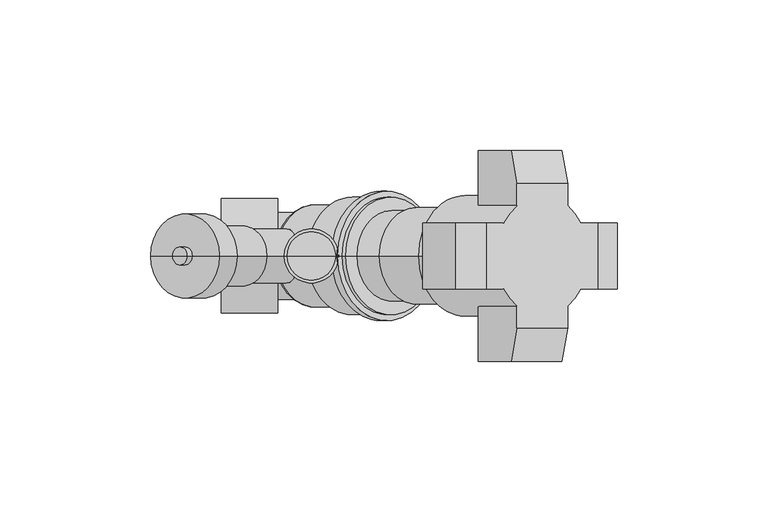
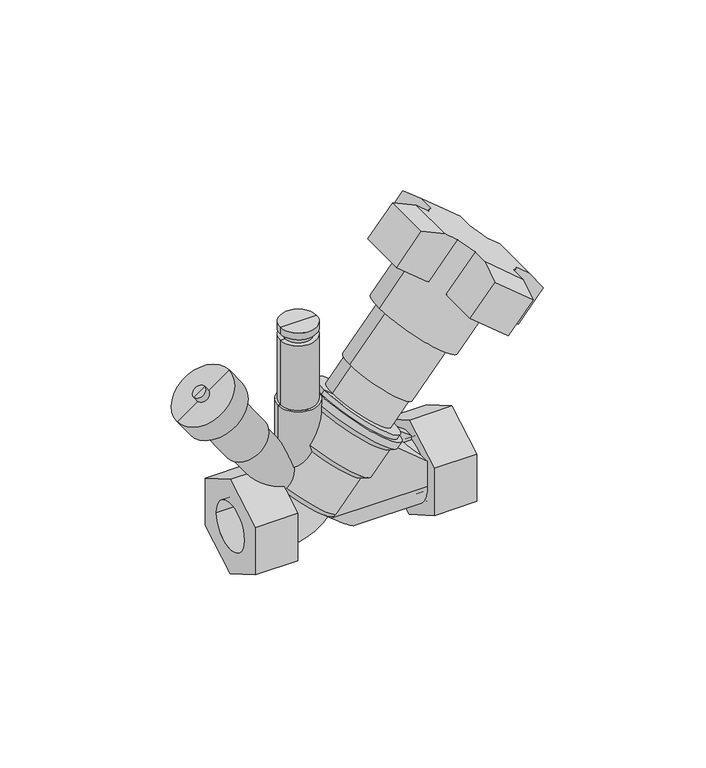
"""IFC4 building model written with IfcOpenShell, lengths in millimetres: valve geometry, 400_56_KOMF_VTR DN20-50 : DN 15, meet & vul/aftap."""

from ifc_helpers import new_model, si_unit, point, frame, origin, origin_2d, place, context, project, spatial, polyline, circle_curve, ellipse_curve, trimmed, segment, composite_curve, outline, extrude, source, transform, mapped, element, save
from ifc_brep_helpers import plane_surface, cylinder_surface, revolved_surface, advanced_brep


def valve_2c07aacf(model_context):
    return source(origin(), model_context, "Body", "SolidModel", [
        advanced_brep(
        [(-29.95, -19.0, 10.9696551), (-29.95, -19.0, -10.9696551), (-29.95, 0.0, -21.9393102), (-29.95, 19.0, -10.9696551), (-29.95, 19.0, 10.9696551), (-29.95, 0.0, 21.9393102), (-48.75, -19.0, 10.9696551), (-48.75, 0.0, 21.9393102), (-48.75, 19.0, 10.9696551), (-48.75, 19.0, -10.9696551), (-48.75, 0.0, -21.9393102), (-48.75, -19.0, -10.9696551), (-48.75, -10.65, 0.0), (-48.75, 10.65, 0.0), (-31.95, -10.65, 0.0), (-31.95, 10.65, 0.0)],
        [
            (0, 1),
            (1, 2),
            (2, 3),
            (3, 4),
            (4, 5),
            (5, 0),
            (6, 7),
            (7, 8),
            (8, 9),
            (9, 10),
            (10, 11),
            (11, 6),
            (12, 13, circle_curve(frame((-48.75, 0.0, 0.0), z_axis=(1.0, 0.0, 0.0), x_axis=(0.0, 1.0, 0.0)), 10.65)),
            (13, 12, circle_curve(frame((-48.75, 0.0, 0.0), z_axis=(1.0, 0.0, 0.0), x_axis=(0.0, 1.0, 0.0)), 10.65)),
            (0, 6),
            (11, 1),
            (10, 2),
            (9, 3),
            (8, 4),
            (7, 5),
            (14, 15, circle_curve(frame((-31.95, 0.0, 0.0), z_axis=(-1.0, 0.0, 0.0), x_axis=(0.0, 1.0, 0.0)), 10.65)),
            (15, 14, circle_curve(frame((-31.95, 0.0, 0.0), z_axis=(-1.0, 0.0, 0.0), x_axis=(0.0, 1.0, 0.0)), 10.65)),
            (15, 13),
            (12, 14),
        ],
        [
            plane_surface(frame((-29.95, -19.0, 10.9696551), z_axis=(1.0, 0.0, 0.0), x_axis=(0.0, 0.0, -1.0))),
            plane_surface(frame((-48.75, -19.0, 10.9696551), z_axis=(-1.0, 0.0, 0.0), x_axis=(0.0, 0.0, 1.0))),
            plane_surface(frame((-29.95, -19.0, 10.9696551), z_axis=(0.0, -1.0, 0.0), x_axis=(-1.0, 0.0, 0.0))),
            plane_surface(frame((-29.95, -19.0, -10.9696551), z_axis=(0.0, -0.5000000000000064, -0.866025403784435), x_axis=(-1.0, 0.0, 0.0))),
            plane_surface(frame((-29.95, 0.0, -21.9393102), z_axis=(0.0, 0.5000000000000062, -0.866025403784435), x_axis=(-1.0, 0.0, 0.0))),
            plane_surface(frame((-29.95, 19.0, -10.9696551), z_axis=(0.0, 1.0, 0.0), x_axis=(-1.0, 0.0, 0.0))),
            plane_surface(frame((-29.95, 19.0, 10.9696551), z_axis=(0.0, 0.5000000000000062, 0.866025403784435), x_axis=(-1.0, 0.0, 0.0))),
            plane_surface(frame((-29.95, 0.0, 21.9393102), z_axis=(0.0, -0.5000000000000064, 0.866025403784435), x_axis=(-1.0, 0.0, 0.0))),
            plane_surface(frame((-31.95, 10.65, 0.0), z_axis=(-1.0, 0.0, 0.0), x_axis=(0.0, 0.0, 1.0))),
            revolved_surface(polyline([(-31.95, 10.65, 0.0), (-48.75, 10.65, 0.0)]), (-48.75, 0.0, 0.0), (1.0, 0.0, 0.0)),
        ],
        [
            (0, [[1, 2, 3, 4, 5, 6]]),
            (1, [[7, 8, 9, 10, 11, 12], [13, 14]]),
            (2, [[-1, 15, -12, 16]]),
            (3, [[-2, -16, -11, 17]]),
            (4, [[-3, -17, -10, 18]]),
            (5, [[-4, -18, -9, 19]]),
            (6, [[-5, -19, -8, 20]]),
            (7, [[-6, -20, -7, -15]]),
            (8, [[21, 22]]),
            (9, [[-22, 23, -13, 24]]),
            (9, [[-21, -24, -14, -23]]),
        ],
    ),
        advanced_brep(
        [(48.75, -19.0, 10.9696551), (48.75, -19.0, -10.9696551), (48.75, 0.0, -21.9393102), (48.75, 19.0, -10.9696551), (48.75, 19.0, 10.9696551), (48.75, 0.0, 21.9393102), (48.75, 10.65, 0.0), (48.75, -10.65, 0.0), (29.95, -19.0, 10.9696551), (29.95, 0.0, 21.9393102), (29.95, 19.0, 10.9696551), (29.95, 19.0, -10.9696551), (29.95, 0.0, -21.9393102), (29.95, -19.0, -10.9696551), (31.95, -10.65, 0.0), (31.95, 10.65, 0.0)],
        [
            (0, 1),
            (1, 2),
            (2, 3),
            (3, 4),
            (4, 5),
            (5, 0),
            (6, 7, circle_curve(frame((48.75, 0.0, 0.0), z_axis=(-1.0, 0.0, 0.0), x_axis=(0.0, 1.0, 0.0)), 10.65)),
            (7, 6, circle_curve(frame((48.75, 0.0, 0.0), z_axis=(-1.0, 0.0, 0.0), x_axis=(0.0, 1.0, 0.0)), 10.65)),
            (8, 9),
            (9, 10),
            (10, 11),
            (11, 12),
            (12, 13),
            (13, 8),
            (0, 8),
            (13, 1),
            (12, 2),
            (11, 3),
            (10, 4),
            (9, 5),
            (14, 15, circle_curve(frame((31.95, 0.0, 0.0), z_axis=(1.0, 0.0, 0.0), x_axis=(0.0, 1.0, 0.0)), 10.65)),
            (15, 14, circle_curve(frame((31.95, 0.0, 0.0), z_axis=(1.0, 0.0, 0.0), x_axis=(0.0, 1.0, 0.0)), 10.65)),
            (14, 7),
            (6, 15),
        ],
        [
            plane_surface(frame((48.75, -19.0, 10.9696551), z_axis=(1.0, 0.0, 0.0), x_axis=(0.0, 0.0, -1.0))),
            plane_surface(frame((29.95, -19.0, 10.9696551), z_axis=(-1.0, 0.0, 0.0), x_axis=(0.0, 0.0, 1.0))),
            plane_surface(frame((48.75, -19.0, 10.9696551), z_axis=(0.0, -1.0, 0.0), x_axis=(-1.0, 0.0, 0.0))),
            plane_surface(frame((48.75, -19.0, -10.9696551), z_axis=(0.0, -0.5000000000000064, -0.866025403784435), x_axis=(-1.0, 0.0, 0.0))),
            plane_surface(frame((48.75, 0.0, -21.9393102), z_axis=(0.0, 0.5000000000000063, -0.866025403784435), x_axis=(-1.0, 0.0, 0.0))),
            plane_surface(frame((48.75, 19.0, -10.9696551), z_axis=(0.0, 1.0, 0.0), x_axis=(-1.0, 0.0, 0.0))),
            plane_surface(frame((48.75, 19.0, 10.9696551), z_axis=(0.0, 0.5000000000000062, 0.866025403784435), x_axis=(-1.0, 0.0, 0.0))),
            plane_surface(frame((48.75, 0.0, 21.9393102), z_axis=(0.0, -0.5000000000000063, 0.866025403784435), x_axis=(-1.0, 0.0, 0.0))),
            plane_surface(frame((31.95, 10.65, 0.0), z_axis=(1.0, 0.0, 0.0), x_axis=(0.0, 0.0, -1.0))),
            revolved_surface(polyline([(48.75, 10.65, 0.0), (31.95, 10.65, 0.0)]), (31.95, 0.0, 0.0), (1.0, 0.0, 0.0)),
        ],
        [
            (0, [[1, 2, 3, 4, 5, 6], [7, 8]]),
            (1, [[9, 10, 11, 12, 13, 14]]),
            (2, [[-1, 15, -14, 16]]),
            (3, [[-2, -16, -13, 17]]),
            (4, [[-3, -17, -12, 18]]),
            (5, [[-4, -18, -11, 19]]),
            (6, [[-5, -19, -10, 20]]),
            (7, [[-6, -20, -9, -15]]),
            (8, [[21, 22]]),
            (9, [[-21, 23, -7, 24]]),
            (9, [[-22, -24, -8, -23]]),
        ],
    ),
        extrude(outline(polyline([(14.5, 31.95), (22.4767765, 21.2168772), (35.0553129, 6.2263612), (0.0, 22.45), (0.0, 31.95), (14.5, 31.95)])), frame((0.0, -2.0, 0.0), z_axis=(0.0, 1.0, 0.0), x_axis=(0.0, 0.0, 1.0)), (0.0, 0.0, 1.0), 4.0),
        extrude(outline(composite_curve([segment(trimmed(circle_curve(origin_2d(), 10.65), [point((0.0, -10.65))], [point((0.0, 10.65))], False, "CARTESIAN"), True, "CONTINUOUS"), segment(trimmed(circle_curve(origin_2d(), 10.65), [point((0.0, 10.65))], [point((0.0, -10.65))], False, "CARTESIAN"), True, "CONTINUOUS")], self_intersect=False)), frame((29.95, 0.0, 0.0), z_axis=(1.0, 0.0, 0.0), x_axis=(0.0, 1.0, 0.0)), (0.0, 0.0, 1.0), 2.0),
        advanced_brep(
        [(7.5119364, 0.0, 36.5874018), (22.4498031, 0.0, 24.0530434), (-7.4259302, 0.0, 49.1217602), (-30.3330222, 0.0, 14.8213938), (-7.3516889, 0.0, -4.4622345), (-18.8423556, 0.0, 5.1795797), (-19.6521465, 0.0, 30.6618134), (6.3933645, 0.0, 8.8070347), (-4.5340248, 0.0, -4.2157208), (-30.5795359, 0.0, 17.6390579), (-20.2816824, 0.0, 33.8008714), (9.5940509, 0.0, 8.7321546), (-11.9254435, 0.0, 43.7594491), (17.9502898, 0.0, 18.6907323), (-12.1719572, 0.0, 46.5771132), (20.7679539, 0.0, 18.937246), (-10.2435943, 0.0, 48.8752465), (22.6963167, 0.0, 21.2353793), (-8.7115054, 0.0, 47.5896713), (21.1642278, 0.0, 22.5209546)],
        [
            (0, 1),
            (1, 2, circle_curve(frame((7.5119364, 0.0, 36.5874018), z_axis=(0.6427876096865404, 0.0, 0.7660444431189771), x_axis=(0.7660444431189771, 0.0, -0.6427876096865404)), 19.5)),
            (2, 0),
            (2, 1, circle_curve(frame((7.5119364, 0.0, 36.5874018), z_axis=(0.6427876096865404, 0.0, 0.7660444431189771), x_axis=(0.7660444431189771, 0.0, -0.6427876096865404)), 19.5)),
            (3, 4, circle_curve(frame((-18.8423556, 0.0, 5.1795797), z_axis=(-0.6427876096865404, 0.0, -0.7660444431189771), x_axis=(0.7660444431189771, 0.0, -0.6427876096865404)), 15.0)),
            (4, 5),
            (5, 3),
            (4, 3, circle_curve(frame((-18.8423556, 0.0, 5.1795797), z_axis=(-0.6427876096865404, 0.0, -0.7660444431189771), x_axis=(0.7660444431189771, 0.0, -0.6427876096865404)), 15.0)),
            (6, 7, circle_curve(frame((-6.629391, 0.0, 19.7344241), z_axis=(-0.6427876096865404, 0.0, -0.7660444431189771), x_axis=(0.7660444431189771, 0.0, -0.6427876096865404)), 17.0)),
            (7, 8),
            (8, 9, circle_curve(frame((-17.5567804, 0.0, 6.7116685), z_axis=(0.6427876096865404, 0.0, 0.7660444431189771), x_axis=(0.7660444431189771, 0.0, -0.6427876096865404)), 17.0)),
            (9, 6),
            (7, 6, circle_curve(frame((-6.629391, 0.0, 19.7344241), z_axis=(-0.6427876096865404, 0.0, -0.7660444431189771), x_axis=(0.7660444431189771, 0.0, -0.6427876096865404)), 17.0)),
            (9, 8, circle_curve(frame((-17.5567804, 0.0, 6.7116685), z_axis=(0.6427876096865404, 0.0, 0.7660444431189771), x_axis=(0.7660444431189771, 0.0, -0.6427876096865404)), 17.0)),
            (10, 11, circle_curve(frame((-5.3438158, 0.0, 21.266513), z_axis=(-0.6427876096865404, 0.0, -0.7660444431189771), x_axis=(0.7660444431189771, 0.0, -0.6427876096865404)), 19.5)),
            (11, 7),
            (6, 10),
            (11, 10, circle_curve(frame((-5.3438158, 0.0, 21.266513), z_axis=(-0.6427876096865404, 0.0, -0.7660444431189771), x_axis=(0.7660444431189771, 0.0, -0.6427876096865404)), 19.5)),
            (12, 13, circle_curve(frame((3.0124232, 0.0, 31.2250907), z_axis=(-0.6427876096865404, 0.0, -0.7660444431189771), x_axis=(0.7660444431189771, 0.0, -0.6427876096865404)), 19.5)),
            (13, 11),
            (10, 12),
            (13, 12, circle_curve(frame((3.0124232, 0.0, 31.2250907), z_axis=(-0.6427876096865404, 0.0, -0.7660444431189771), x_axis=(0.7660444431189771, 0.0, -0.6427876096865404)), 19.5)),
            (14, 15, circle_curve(frame((4.2979984, 0.0, 32.7571796), z_axis=(-0.6427876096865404, 0.0, -0.7660444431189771), x_axis=(0.7660444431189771, 0.0, -0.6427876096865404)), 21.5)),
            (15, 13),
            (12, 14),
            (15, 14, circle_curve(frame((4.2979984, 0.0, 32.7571796), z_axis=(-0.6427876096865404, 0.0, -0.7660444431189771), x_axis=(0.7660444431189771, 0.0, -0.6427876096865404)), 21.5)),
            (16, 17, circle_curve(frame((6.2263612, 0.0, 35.0553129), z_axis=(-0.6427876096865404, 0.0, -0.7660444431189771), x_axis=(0.7660444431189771, 0.0, -0.6427876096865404)), 21.5)),
            (17, 15),
            (14, 16),
            (17, 16, circle_curve(frame((6.2263612, 0.0, 35.0553129), z_axis=(-0.6427876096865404, 0.0, -0.7660444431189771), x_axis=(0.7660444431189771, 0.0, -0.6427876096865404)), 21.5)),
            (18, 19, circle_curve(frame((6.2263612, 0.0, 35.0553129), z_axis=(-0.6427876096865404, 0.0, -0.7660444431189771), x_axis=(0.7660444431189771, 0.0, -0.6427876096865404)), 19.5)),
            (19, 17),
            (16, 18),
            (19, 18, circle_curve(frame((6.2263612, 0.0, 35.0553129), z_axis=(-0.6427876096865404, 0.0, -0.7660444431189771), x_axis=(0.7660444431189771, 0.0, -0.6427876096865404)), 19.5)),
            (1, 19),
            (18, 2),
            (8, 4, circle_curve(frame((-6.0661137, 0.0, -2.9301456), z_axis=(0.0, 1.0, 0.0), x_axis=(0.6427876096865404, 0.0, 0.7660444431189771)), 2.0)),
            (3, 9, circle_curve(frame((-29.047447, 0.0, 16.3534827), z_axis=(0.0, 1.0, 0.0), x_axis=(0.6427876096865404, 0.0, 0.7660444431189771)), 2.0)),
        ],
        [
            plane_surface(frame((7.5119364, 0.0, 36.5874018), z_axis=(0.6427876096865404, 0.0, 0.7660444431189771), x_axis=(0.7660444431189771, 0.0, -0.6427876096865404))),
            plane_surface(frame((-18.8423556, 0.0, 5.1795797), z_axis=(-0.6427876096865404, 0.0, -0.7660444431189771), x_axis=(0.7660444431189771, 0.0, -0.6427876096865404))),
            cylinder_surface(frame((-23.188539, 0.0, 0.0), z_axis=(0.6427876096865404, 0.0, 0.7660444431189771), x_axis=(0.7660444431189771, 0.0, -0.6427876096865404)), 17.0),
            revolved_surface(polyline([(6.3933645, 0.0, 8.8070347), (9.5940509, 0.0, 8.7321546)]), (-23.188539, 0.0, 0.0), (0.6427876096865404, 0.0, 0.7660444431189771)),
            cylinder_surface(frame((-23.188539, 0.0, 0.0), z_axis=(0.6427876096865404, 0.0, 0.7660444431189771), x_axis=(0.7660444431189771, 0.0, -0.6427876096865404)), 19.5),
            revolved_surface(polyline([(17.9502898, 0.0, 18.6907323), (20.7679539, 0.0, 18.937246)]), (-23.188539, 0.0, 0.0), (0.6427876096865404, 0.0, 0.7660444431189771)),
            cylinder_surface(frame((-23.188539, 0.0, 0.0), z_axis=(0.6427876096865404, 0.0, 0.7660444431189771), x_axis=(0.7660444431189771, 0.0, -0.6427876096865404)), 21.5),
            plane_surface(frame((6.2263612, 0.0, 35.0553129), z_axis=(0.6427876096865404, 0.0, 0.7660444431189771), x_axis=(0.7660444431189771, 0.0, -0.6427876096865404))),
            revolved_surface(trimmed(ellipse_curve(frame((-6.0661137, 0.0, -2.9301456), z_axis=(0.0, -1.0, 0.0), x_axis=(0.6427876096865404, 0.0, 0.7660444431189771)), 2.0, 2.0), [point((-7.3516889, 0.0, -4.4622345))], [point((-4.5340248, 0.0, -4.2157208))], True, "CARTESIAN"), (-23.188539, 0.0, 0.0), (0.6427876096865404, 0.0, 0.7660444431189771)),
        ],
        [
            (0, [[1, 2, 3]]),
            (0, [[-3, 4, -1]]),
            (1, [[5, 6, 7]]),
            (1, [[8, -7, -6]]),
            (2, [[9, 10, 11, 12]]),
            (2, [[13, -12, 14, -10]]),
            (3, [[15, 16, -9, 17]]),
            (3, [[18, -17, -13, -16]]),
            (4, [[19, 20, -15, 21]]),
            (4, [[22, -21, -18, -20]]),
            (5, [[23, 24, -19, 25]]),
            (5, [[26, -25, -22, -24]]),
            (6, [[27, 28, -23, 29]]),
            (6, [[30, -29, -26, -28]]),
            (7, [[31, 32, -27, 33]]),
            (7, [[34, -33, -30, -32]]),
            (4, [[-2, 35, -31, 36]]),
            (4, [[-4, -36, -34, -35]]),
            (8, [[-11, 37, -5, 38]]),
            (8, [[-14, -38, -8, -37]]),
        ],
    ),
        advanced_brep(
        [(-27.8423556, 0.0, 49.0404639), (-9.8423556, 0.0, 49.0404639), (-9.8423556, 0.0, 5.1795797), (-27.8423556, 0.0, 5.1795797), (-26.8423556, 0.0, 49.0404639), (-10.8423556, 0.0, 49.0404639), (-26.8423556, 0.0, 79.0404639), (-10.8423556, 0.0, 79.0404639), (-24.8423556, 0.0, 79.0404639), (-12.8423556, 0.0, 79.0404639), (-18.8423556, 0.0, 5.1795797), (-24.8423556, 0.0, 82.0404639), (-12.8423556, 0.0, 82.0404639), (-26.8423556, 0.0, 82.0404639), (-10.8423556, 0.0, 82.0404639), (-26.8423556, 0.0, 85.0404639), (-10.8423556, 0.0, 85.0404639), (-18.8423556, 0.0, 85.0404639)],
        [
            (0, 1, circle_curve(frame((-18.8423556, 0.0, 49.0404639), z_axis=(0.0, 0.0, -1.0), x_axis=(1.0, 0.0, 0.0)), 9.0)),
            (1, 2),
            (2, 3, circle_curve(frame((-18.8423556, 0.0, 5.1795797), z_axis=(0.0, 0.0, 1.0), x_axis=(1.0, 0.0, 0.0)), 9.0)),
            (3, 0),
            (1, 0, circle_curve(frame((-18.8423556, 0.0, 49.0404639), z_axis=(0.0, 0.0, -1.0), x_axis=(1.0, 0.0, 0.0)), 9.0)),
            (3, 2, circle_curve(frame((-18.8423556, 0.0, 5.1795797), z_axis=(0.0, 0.0, 1.0), x_axis=(1.0, 0.0, 0.0)), 9.0)),
            (4, 5, circle_curve(frame((-18.8423556, 0.0, 49.0404639), z_axis=(0.0, 0.0, -1.0), x_axis=(1.0, 0.0, 0.0)), 8.0)),
            (5, 1),
            (0, 4),
            (5, 4, circle_curve(frame((-18.8423556, 0.0, 49.0404639), z_axis=(0.0, 0.0, -1.0), x_axis=(1.0, 0.0, 0.0)), 8.0)),
            (6, 7, circle_curve(frame((-18.8423556, 0.0, 79.0404639), z_axis=(0.0, 0.0, -1.0), x_axis=(1.0, 0.0, 0.0)), 8.0)),
            (7, 5),
            (4, 6),
            (7, 6, circle_curve(frame((-18.8423556, 0.0, 79.0404639), z_axis=(0.0, 0.0, -1.0), x_axis=(1.0, 0.0, 0.0)), 8.0)),
            (8, 9, circle_curve(frame((-18.8423556, 0.0, 79.0404639), z_axis=(0.0, 0.0, -1.0), x_axis=(1.0, 0.0, 0.0)), 6.0)),
            (9, 7),
            (6, 8),
            (9, 8, circle_curve(frame((-18.8423556, 0.0, 79.0404639), z_axis=(0.0, 0.0, -1.0), x_axis=(1.0, 0.0, 0.0)), 6.0)),
            (2, 10),
            (10, 3),
            (11, 12, circle_curve(frame((-18.8423556, 0.0, 82.0404639), z_axis=(0.0, 0.0, -1.0), x_axis=(1.0, 0.0, 0.0)), 6.0)),
            (12, 9),
            (8, 11),
            (12, 11, circle_curve(frame((-18.8423556, 0.0, 82.0404639), z_axis=(0.0, 0.0, -1.0), x_axis=(1.0, 0.0, 0.0)), 6.0)),
            (13, 14, circle_curve(frame((-18.8423556, 0.0, 82.0404639), z_axis=(0.0, 0.0, -1.0), x_axis=(1.0, 0.0, 0.0)), 8.0)),
            (14, 12),
            (11, 13),
            (14, 13, circle_curve(frame((-18.8423556, 0.0, 82.0404639), z_axis=(0.0, 0.0, -1.0), x_axis=(1.0, 0.0, 0.0)), 8.0)),
            (15, 16, circle_curve(frame((-18.8423556, 0.0, 85.0404639), z_axis=(0.0, 0.0, -1.0), x_axis=(1.0, 0.0, 0.0)), 8.0)),
            (16, 14),
            (13, 15),
            (16, 15, circle_curve(frame((-18.8423556, 0.0, 85.0404639), z_axis=(0.0, 0.0, -1.0), x_axis=(1.0, 0.0, 0.0)), 8.0)),
            (17, 16),
            (15, 17),
        ],
        [
            cylinder_surface(frame((-18.8423556, 0.0, 5.1795797), z_axis=(0.0, 0.0, 1.0), x_axis=(1.0, 0.0, 0.0)), 9.0),
            plane_surface(frame((-18.8423556, 0.0, 49.0404639), z_axis=(0.0, 0.0, 1.0), x_axis=(1.0, 0.0, 0.0))),
            cylinder_surface(frame((-18.8423556, 0.0, 5.1795797), z_axis=(0.0, 0.0, 1.0), x_axis=(1.0, 0.0, 0.0)), 8.0),
            plane_surface(frame((-18.8423556, 0.0, 79.0404639), z_axis=(0.0, 0.0, 1.0), x_axis=(1.0, 0.0, 0.0))),
            plane_surface(frame((-18.8423556, 0.0, 5.1795797), z_axis=(0.0, 0.0, -1.0), x_axis=(1.0, 0.0, 0.0))),
            cylinder_surface(frame((-18.8423556, 0.0, 5.1795797), z_axis=(0.0, 0.0, 1.0), x_axis=(1.0, 0.0, 0.0)), 6.0),
            plane_surface(frame((-18.8423556, 0.0, 82.0404639), z_axis=(0.0, 0.0, -1.0), x_axis=(1.0, 0.0, 0.0))),
            plane_surface(frame((-18.8423556, 0.0, 85.0404639), z_axis=(0.0, 0.0, 1.0), x_axis=(1.0, 0.0, 0.0))),
        ],
        [
            (0, [[1, 2, 3, 4]]),
            (0, [[5, -4, 6, -2]]),
            (1, [[7, 8, -1, 9]]),
            (1, [[10, -9, -5, -8]]),
            (2, [[11, 12, -7, 13]]),
            (2, [[14, -13, -10, -12]]),
            (3, [[15, 16, -11, 17]]),
            (3, [[18, -17, -14, -16]]),
            (4, [[-3, 19, 20]]),
            (4, [[-6, -20, -19]]),
            (5, [[21, 22, -15, 23]]),
            (5, [[24, -23, -18, -22]]),
            (6, [[25, 26, -21, 27]]),
            (6, [[28, -27, -24, -26]]),
            (2, [[29, 30, -25, 31]]),
            (2, [[32, -31, -28, -30]]),
            (7, [[33, -29, 34]]),
            (7, [[-34, -32, -33]]),
        ],
    ),
        advanced_brep(
        [(-62.8411907, 0.0, 48.8385136), (-44.8198457, 0.0, 61.4571952), (-45.6389977, 0.0, 60.8836187), (-62.0220386, 0.0, 49.41209), (-26.214724, 0.0, 0.0173917), (-11.4699872, 0.0, 10.3417676), (-18.8423556, 0.0, 5.1795797), (-49.1577814, 0.0, 32.7834735), (-34.4130446, 0.0, 43.1078494), (-49.9769335, 0.0, 32.2098971), (-33.5938926, 0.0, 43.6814258), (-63.9883436, 0.0, 50.4768176), (-45.9669986, 0.0, 63.0954992), (-66.4457997, 0.0, 48.7560883), (-43.5095424, 0.0, 64.8162286), (-72.181564, 0.0, 56.9476088), (-49.2453068, 0.0, 73.007749), (-63.1708916, 0.0, 63.2569496), (-58.2559793, 0.0, 66.6984082), (-64.8916209, 0.0, 65.7144057), (-59.9767086, 0.0, 69.1558643), (-62.4341647, 0.0, 67.435135)],
        [
            (0, 1, circle_curve(frame((-53.8305182, 0.0, 55.1478544), z_axis=(0.573576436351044, 0.0, -0.8191520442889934), x_axis=(0.8191520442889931, 0.0, 0.5735764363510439)), 11.0)),
            (1, 2),
            (2, 3, circle_curve(frame((-53.8305182, 0.0, 55.1478544), z_axis=(-0.573576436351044, 0.0, 0.8191520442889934), x_axis=(0.8191520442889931, 0.0, 0.5735764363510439)), 10.0)),
            (3, 0),
            (1, 0, circle_curve(frame((-53.8305182, 0.0, 55.1478544), z_axis=(0.573576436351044, 0.0, -0.8191520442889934), x_axis=(0.8191520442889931, 0.0, 0.5735764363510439)), 11.0)),
            (3, 2, circle_curve(frame((-53.8305182, 0.0, 55.1478544), z_axis=(-0.573576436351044, 0.0, 0.8191520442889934), x_axis=(0.8191520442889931, 0.0, 0.5735764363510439)), 10.0)),
            (4, 5, circle_curve(frame((-18.8423556, 0.0, 5.1795797), z_axis=(0.573576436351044, 0.0, -0.8191520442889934), x_axis=(0.8191520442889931, 0.0, 0.5735764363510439)), 9.0)),
            (5, 6),
            (6, 4),
            (5, 4, circle_curve(frame((-18.8423556, 0.0, 5.1795797), z_axis=(0.573576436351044, 0.0, -0.8191520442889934), x_axis=(0.8191520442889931, 0.0, 0.5735764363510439)), 9.0)),
            (7, 8, circle_curve(frame((-41.785413, 0.0, 37.9456614), z_axis=(0.573576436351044, 0.0, -0.8191520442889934), x_axis=(0.8191520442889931, 0.0, 0.5735764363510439)), 9.0)),
            (8, 5),
            (4, 7),
            (8, 7, circle_curve(frame((-41.785413, 0.0, 37.9456614), z_axis=(0.573576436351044, 0.0, -0.8191520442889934), x_axis=(0.8191520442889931, 0.0, 0.5735764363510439)), 9.0)),
            (9, 10, circle_curve(frame((-41.785413, 0.0, 37.9456614), z_axis=(0.573576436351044, 0.0, -0.8191520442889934), x_axis=(0.8191520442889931, 0.0, 0.5735764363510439)), 10.0)),
            (10, 8),
            (7, 9),
            (10, 9, circle_curve(frame((-41.785413, 0.0, 37.9456614), z_axis=(0.573576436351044, 0.0, -0.8191520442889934), x_axis=(0.8191520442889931, 0.0, 0.5735764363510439)), 10.0)),
            (2, 10),
            (9, 3),
            (11, 12, circle_curve(frame((-54.9776711, 0.0, 56.7861584), z_axis=(0.573576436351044, 0.0, -0.8191520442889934), x_axis=(0.8191520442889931, 0.0, 0.5735764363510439)), 11.0)),
            (12, 1),
            (0, 11),
            (12, 11, circle_curve(frame((-54.9776711, 0.0, 56.7861584), z_axis=(0.573576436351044, 0.0, -0.8191520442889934), x_axis=(0.8191520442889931, 0.0, 0.5735764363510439)), 11.0)),
            (13, 14, circle_curve(frame((-54.9776711, 0.0, 56.7861584), z_axis=(0.573576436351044, 0.0, -0.8191520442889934), x_axis=(0.8191520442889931, 0.0, 0.5735764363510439)), 14.0)),
            (14, 12),
            (11, 13),
            (14, 13, circle_curve(frame((-54.9776711, 0.0, 56.7861584), z_axis=(0.573576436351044, 0.0, -0.8191520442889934), x_axis=(0.8191520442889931, 0.0, 0.5735764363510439)), 14.0)),
            (15, 16, circle_curve(frame((-60.7134354, 0.0, 64.9776789), z_axis=(0.573576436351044, 0.0, -0.8191520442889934), x_axis=(0.8191520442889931, 0.0, 0.5735764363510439)), 14.0)),
            (16, 14),
            (13, 15),
            (16, 15, circle_curve(frame((-60.7134354, 0.0, 64.9776789), z_axis=(0.573576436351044, 0.0, -0.8191520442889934), x_axis=(0.8191520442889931, 0.0, 0.5735764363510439)), 14.0)),
            (17, 18, circle_curve(frame((-60.7134354, 0.0, 64.9776789), z_axis=(0.573576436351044, 0.0, -0.8191520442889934), x_axis=(0.8191520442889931, 0.0, 0.5735764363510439)), 3.0)),
            (18, 16),
            (15, 17),
            (18, 17, circle_curve(frame((-60.7134354, 0.0, 64.9776789), z_axis=(0.573576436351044, 0.0, -0.8191520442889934), x_axis=(0.8191520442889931, 0.0, 0.5735764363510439)), 3.0)),
            (19, 20, circle_curve(frame((-62.4341647, 0.0, 67.435135), z_axis=(0.573576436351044, 0.0, -0.8191520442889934), x_axis=(0.8191520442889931, 0.0, 0.5735764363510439)), 3.0)),
            (20, 18),
            (17, 19),
            (20, 19, circle_curve(frame((-62.4341647, 0.0, 67.435135), z_axis=(0.573576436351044, 0.0, -0.8191520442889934), x_axis=(0.8191520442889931, 0.0, 0.5735764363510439)), 3.0)),
            (21, 20),
            (19, 21),
        ],
        [
            plane_surface(frame((-53.8305182, 0.0, 55.1478544), z_axis=(0.573576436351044, 0.0, -0.8191520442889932), x_axis=(0.8191520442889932, 0.0, 0.573576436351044))),
            plane_surface(frame((-18.8423556, 0.0, 5.1795797), z_axis=(0.573576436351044, 0.0, -0.8191520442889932), x_axis=(0.8191520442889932, 0.0, 0.573576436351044))),
            cylinder_surface(frame((-18.8423556, 0.0, 5.1795797), z_axis=(-0.5735764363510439, 0.0, 0.8191520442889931), x_axis=(0.8191520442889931, 0.0, 0.5735764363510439)), 9.0),
            plane_surface(frame((-41.785413, 0.0, 37.9456614), z_axis=(0.573576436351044, 0.0, -0.8191520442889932), x_axis=(0.8191520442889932, 0.0, 0.573576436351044))),
            cylinder_surface(frame((-18.8423556, 0.0, 5.1795797), z_axis=(-0.5735764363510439, 0.0, 0.8191520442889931), x_axis=(0.8191520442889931, 0.0, 0.5735764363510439)), 10.0),
            cylinder_surface(frame((-18.8423556, 0.0, 5.1795797), z_axis=(-0.5735764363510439, 0.0, 0.8191520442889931), x_axis=(0.8191520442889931, 0.0, 0.5735764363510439)), 11.0),
            plane_surface(frame((-54.9776711, 0.0, 56.7861584), z_axis=(0.573576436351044, 0.0, -0.8191520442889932), x_axis=(0.8191520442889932, 0.0, 0.573576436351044))),
            cylinder_surface(frame((-18.8423556, 0.0, 5.1795797), z_axis=(-0.5735764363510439, 0.0, 0.8191520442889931), x_axis=(0.8191520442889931, 0.0, 0.5735764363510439)), 14.0),
            plane_surface(frame((-60.7134354, 0.0, 64.9776789), z_axis=(-0.573576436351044, 0.0, 0.8191520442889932), x_axis=(0.8191520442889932, 0.0, 0.573576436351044))),
            cylinder_surface(frame((-18.8423556, 0.0, 5.1795797), z_axis=(-0.5735764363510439, 0.0, 0.8191520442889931), x_axis=(0.8191520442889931, 0.0, 0.5735764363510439)), 3.0),
            plane_surface(frame((-62.4341647, 0.0, 67.435135), z_axis=(-0.573576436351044, 0.0, 0.8191520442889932), x_axis=(0.8191520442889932, 0.0, 0.573576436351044))),
        ],
        [
            (0, [[1, 2, 3, 4]]),
            (0, [[5, -4, 6, -2]]),
            (1, [[7, 8, 9]]),
            (1, [[10, -9, -8]]),
            (2, [[11, 12, -7, 13]]),
            (2, [[14, -13, -10, -12]]),
            (3, [[15, 16, -11, 17]]),
            (3, [[18, -17, -14, -16]]),
            (4, [[-3, 19, -15, 20]]),
            (4, [[-6, -20, -18, -19]]),
            (5, [[21, 22, -1, 23]]),
            (5, [[24, -23, -5, -22]]),
            (6, [[25, 26, -21, 27]]),
            (6, [[28, -27, -24, -26]]),
            (7, [[29, 30, -25, 31]]),
            (7, [[32, -31, -28, -30]]),
            (8, [[33, 34, -29, 35]]),
            (8, [[36, -35, -32, -34]]),
            (9, [[37, 38, -33, 39]]),
            (9, [[40, -39, -36, -38]]),
            (10, [[41, -37, 42]]),
            (10, [[-42, -40, -41]]),
        ],
    ),
        advanced_brep(
        [(4.5147563, 0.0, 56.351359), (27.4960896, 0.0, 37.0677307), (19.0026031, 0.0, 26.9455877), (-3.9787302, 0.0, 46.229216), (3.7487118, 0.0, 56.9941466), (28.262134, 0.0, 36.4249431), (19.8184021, 0.0, 76.1452577), (44.3318242, 0.0, 55.5760542), (16.7542243, 0.0, 78.7164081), (47.396002, 0.0, 53.0049037), (29.6099765, 0.0, 94.037297), (32.1354005, 11.0, 91.9182146), (44.9911527, 11.0, 107.2391035), (49.3601287, 16.7032931, 103.5730974), (36.5043765, 16.7032931, 88.2522085), (53.3573542, 16.7032931, 74.1108811), (66.2131064, 16.7032931, 89.43177), (70.5820824, 11.0, 85.7657638), (57.7263302, 11.0, 70.444875), (60.2517542, 0.0, 68.3257926), (57.7263302, -11.0, 70.444875), (70.5820824, -11.0, 85.7657638), (66.2131064, -16.7032931, 89.43177), (53.3573542, -16.7032931, 74.1108811), (36.5043765, -16.7032931, 88.2522085), (49.3601287, -16.7032931, 103.5730974), (44.9911527, -11.0, 107.2391035), (32.1354005, -11.0, 91.9182146), (76.1716842, -11.0, 81.075531), (76.1716842, 11.0, 81.075531), (66.2131064, 24.0, 89.43177), (49.3601287, 24.0, 103.5730974), (39.4015509, 11.0, 111.9293363), (39.4015509, -11.0, 111.9293363), (49.3601287, -24.0, 103.5730974), (66.2131064, -24.0, 89.43177), (7.5119364, 0.0, 36.5874018), (29.0466992, -11.0, 116.7018667), (18.1193098, -11.0, 103.6791111), (71.7424209, -11.0, 58.6839785), (82.6698102, -11.0, 71.706734), (82.6698102, 11.0, 71.706734), (71.7424209, 11.0, 58.6839785), (18.1193098, 11.0, 103.6791111), (29.0466992, 11.0, 116.7018667), (53.3573542, 35.0, 74.1108811), (64.2847436, 35.0, 87.1336366), (64.2847436, -35.0, 87.1336366), (53.3573542, -35.0, 74.1108811), (36.5043765, -35.0, 88.2522085), (47.4317658, -35.0, 101.274964), (47.4317658, 35.0, 101.274964), (36.5043765, 35.0, 88.2522085)],
        [
            (0, 1, circle_curve(frame((16.0054229, 0.0, 46.7095449), z_axis=(-0.6427876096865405, 0.0, -0.7660444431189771), x_axis=(0.7660444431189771, 0.0, -0.6427876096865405)), 15.0)),
            (1, 2),
            (2, 3, circle_curve(frame((7.5119364, 0.0, 36.5874018), z_axis=(0.6427876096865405, 0.0, 0.7660444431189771), x_axis=(0.7660444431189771, 0.0, -0.6427876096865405)), 15.0)),
            (3, 0),
            (1, 0, circle_curve(frame((16.0054229, 0.0, 46.7095449), z_axis=(-0.6427876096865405, 0.0, -0.7660444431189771), x_axis=(0.7660444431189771, 0.0, -0.6427876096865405)), 15.0)),
            (3, 2, circle_curve(frame((7.5119364, 0.0, 36.5874018), z_axis=(0.6427876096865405, 0.0, 0.7660444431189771), x_axis=(0.7660444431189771, 0.0, -0.6427876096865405)), 15.0)),
            (0, 4),
            (4, 5, circle_curve(frame((16.0054229, 0.0, 46.7095449), z_axis=(-0.6427876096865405, 0.0, -0.7660444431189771), x_axis=(0.7660444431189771, 0.0, -0.6427876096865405)), 16.0)),
            (5, 1),
            (5, 4, circle_curve(frame((16.0054229, 0.0, 46.7095449), z_axis=(-0.6427876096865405, 0.0, -0.7660444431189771), x_axis=(0.7660444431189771, 0.0, -0.6427876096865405)), 16.0)),
            (4, 6),
            (6, 7, circle_curve(frame((32.0751131, 0.0, 65.8606559), z_axis=(-0.6427876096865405, 0.0, -0.7660444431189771), x_axis=(0.7660444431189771, 0.0, -0.6427876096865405)), 16.0)),
            (7, 5),
            (7, 6, circle_curve(frame((32.0751131, 0.0, 65.8606559), z_axis=(-0.6427876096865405, 0.0, -0.7660444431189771), x_axis=(0.7660444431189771, 0.0, -0.6427876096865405)), 16.0)),
            (6, 8),
            (8, 9, circle_curve(frame((32.0751131, 0.0, 65.8606559), z_axis=(-0.6427876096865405, 0.0, -0.7660444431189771), x_axis=(0.7660444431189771, 0.0, -0.6427876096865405)), 20.0)),
            (9, 7),
            (9, 8, circle_curve(frame((32.0751131, 0.0, 65.8606559), z_axis=(-0.6427876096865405, 0.0, -0.7660444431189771), x_axis=(0.7660444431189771, 0.0, -0.6427876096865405)), 20.0)),
            (8, 10),
            (10, 11, circle_curve(frame((44.9308653, 0.0, 81.1815448), z_axis=(-0.6427876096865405, 0.0, -0.7660444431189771), x_axis=(0.7660444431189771, 0.0, -0.6427876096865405)), 20.0)),
            (11, 12),
            (12, 13, circle_curve(frame((57.7866175, 0.0, 96.5024337), z_axis=(-0.6427876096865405, 0.0, -0.7660444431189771), x_axis=(0.7660444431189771, 0.0, -0.6427876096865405)), 20.0)),
            (13, 14),
            (14, 15, circle_curve(frame((44.9308653, 0.0, 81.1815448), z_axis=(-0.6427876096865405, 0.0, -0.7660444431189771), x_axis=(0.7660444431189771, 0.0, -0.6427876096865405)), 20.0)),
            (15, 16),
            (16, 17, circle_curve(frame((57.7866175, 0.0, 96.5024337), z_axis=(-0.6427876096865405, 0.0, -0.7660444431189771), x_axis=(0.7660444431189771, 0.0, -0.6427876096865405)), 20.0)),
            (17, 18),
            (18, 19, circle_curve(frame((44.9308653, 0.0, 81.1815448), z_axis=(-0.6427876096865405, 0.0, -0.7660444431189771), x_axis=(0.7660444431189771, 0.0, -0.6427876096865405)), 20.0)),
            (19, 9),
            (19, 20, circle_curve(frame((44.9308653, 0.0, 81.1815448), z_axis=(-0.6427876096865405, 0.0, -0.7660444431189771), x_axis=(0.7660444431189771, 0.0, -0.6427876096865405)), 20.0)),
            (20, 21),
            (21, 22, circle_curve(frame((57.7866175, 0.0, 96.5024337), z_axis=(-0.6427876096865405, 0.0, -0.7660444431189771), x_axis=(0.7660444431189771, 0.0, -0.6427876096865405)), 20.0)),
            (22, 23),
            (23, 24, circle_curve(frame((44.9308653, 0.0, 81.1815448), z_axis=(-0.6427876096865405, 0.0, -0.7660444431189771), x_axis=(0.7660444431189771, 0.0, -0.6427876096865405)), 20.0)),
            (24, 25),
            (25, 26, circle_curve(frame((57.7866175, 0.0, 96.5024337), z_axis=(-0.6427876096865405, 0.0, -0.7660444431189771), x_axis=(0.7660444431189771, 0.0, -0.6427876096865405)), 20.0)),
            (26, 27),
            (27, 10, circle_curve(frame((44.9308653, 0.0, 81.1815448), z_axis=(-0.6427876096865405, 0.0, -0.7660444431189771), x_axis=(0.7660444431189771, 0.0, -0.6427876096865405)), 20.0)),
            (28, 29),
            (29, 17),
            (16, 30),
            (30, 31),
            (31, 13),
            (12, 32),
            (32, 33),
            (33, 26),
            (25, 34),
            (34, 35),
            (35, 22),
            (21, 28),
            (2, 36),
            (36, 3),
            (33, 37),
            (37, 38),
            (38, 27),
            (39, 40),
            (40, 28),
            (20, 39),
            (29, 41),
            (41, 42),
            (42, 18),
            (43, 44),
            (44, 32),
            (11, 43),
            (44, 37),
            (43, 38),
            (42, 39),
            (41, 40),
            (45, 46),
            (46, 30),
            (15, 45),
            (35, 47),
            (47, 48),
            (48, 23),
            (49, 50),
            (50, 34),
            (24, 49),
            (31, 51),
            (51, 52),
            (52, 14),
            (45, 52),
            (51, 46),
            (50, 47),
            (49, 48),
        ],
        [
            cylinder_surface(frame((-23.188539, 0.0, 0.0), z_axis=(0.6427876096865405, 0.0, 0.7660444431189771), x_axis=(0.7660444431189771, 0.0, -0.6427876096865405)), 15.0),
            plane_surface(frame((16.0054229, 0.0, 46.7095449), z_axis=(-0.6427876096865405, 0.0, -0.7660444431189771), x_axis=(0.7660444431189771, 0.0, -0.6427876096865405))),
            cylinder_surface(frame((-23.188539, 0.0, 0.0), z_axis=(0.6427876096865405, 0.0, 0.7660444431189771), x_axis=(0.7660444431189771, 0.0, -0.6427876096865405)), 16.0),
            plane_surface(frame((32.0751131, 0.0, 65.8606559), z_axis=(-0.6427876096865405, 0.0, -0.7660444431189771), x_axis=(0.7660444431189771, 0.0, -0.6427876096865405))),
            cylinder_surface(frame((-23.188539, 0.0, 0.0), z_axis=(0.6427876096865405, 0.0, 0.7660444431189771), x_axis=(0.7660444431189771, 0.0, -0.6427876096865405)), 20.0),
            plane_surface(frame((57.7866175, 0.0, 96.5024337), z_axis=(0.6427876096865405, 0.0, 0.7660444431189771), x_axis=(0.7660444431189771, 0.0, -0.6427876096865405))),
            plane_surface(frame((7.5119364, 0.0, 36.5874018), z_axis=(-0.6427876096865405, 0.0, -0.7660444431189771), x_axis=(0.7660444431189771, 0.0, -0.6427876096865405))),
            plane_surface(frame((39.4015509, -11.0, 111.9293363), z_axis=(0.0, -1.0, 0.0), x_axis=(-0.7660444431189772, 0.0, 0.6427876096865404))),
            plane_surface(frame((39.4015509, 11.0, 111.9293363), z_axis=(0.0, 1.0, 0.0), x_axis=(0.7660444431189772, 0.0, -0.6427876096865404))),
            plane_surface(frame((39.4015509, -11.0, 111.9293363), z_axis=(0.4185786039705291, 0.0, 0.9081805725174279), x_axis=(0.0, 1.0, 0.0))),
            plane_surface(frame((29.0466992, -11.0, 116.7018667), z_axis=(-0.7660444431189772, 0.0, 0.6427876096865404), x_axis=(0.0, 1.0, 0.0))),
            plane_surface(frame((18.1193098, -11.0, 103.6791111), z_axis=(-0.6427876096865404, 0.0, -0.7660444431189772), x_axis=(0.0, 1.0, 0.0))),
            plane_surface(frame((71.7424209, -11.0, 58.6839785), z_axis=(0.7660444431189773, 0.0, -0.6427876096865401), x_axis=(0.0, 1.0, 0.0))),
            plane_surface(frame((82.6698102, -11.0, 71.706734), z_axis=(0.8216978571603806, 0.0, 0.5699233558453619), x_axis=(0.0, 1.0, 0.0))),
            plane_surface(frame((64.2847436, 35.0, 87.1336366), z_axis=(0.7660444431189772, 0.0, -0.6427876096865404), x_axis=(0.6427876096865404, 0.0, 0.7660444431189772))),
            plane_surface(frame((47.4317658, 35.0, 101.274964), z_axis=(-0.7660444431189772, 0.0, 0.6427876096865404), x_axis=(-0.6427876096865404, 0.0, -0.7660444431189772))),
            plane_surface(frame((53.3573542, 35.0, 74.1108811), z_axis=(0.0, 1.0000000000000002, 0.0), x_axis=(-0.7660444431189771, 0.0, 0.6427876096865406))),
            plane_surface(frame((64.2847436, 35.0, 87.1336366), z_axis=(0.6201382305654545, 0.26311740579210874, 0.7390519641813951), x_axis=(-0.7660444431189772, 0.0, 0.6427876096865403))),
            plane_surface(frame((66.2131064, -24.0, 89.43177), z_axis=(0.6201382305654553, -0.2631174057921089, 0.7390519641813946), x_axis=(-0.7660444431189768, 0.0, 0.642787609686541))),
            plane_surface(frame((64.2847436, -35.0, 87.1336366), z_axis=(0.0, -1.0, 0.0), x_axis=(-0.7660444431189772, 0.0, 0.6427876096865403))),
            plane_surface(frame((53.3573542, -35.0, 74.1108811), z_axis=(-0.6427876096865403, 0.0, -0.7660444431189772), x_axis=(-0.7660444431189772, 0.0, 0.6427876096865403))),
        ],
        [
            (0, [[1, 2, 3, 4]]),
            (0, [[-2, 5, -4, 6]]),
            (1, [[-1, 7, 8, 9]]),
            (1, [[-5, -9, 10, -7]]),
            (2, [[-8, 11, 12, 13]]),
            (2, [[-10, -13, 14, -11]]),
            (3, [[-12, 15, 16, 17]]),
            (3, [[-14, -17, 18, -15]]),
            (4, [[-16, 19, 20, 21, 22, 23, 24, 25, 26, 27, 28, 29]]),
            (4, [[-18, -29, 30, 31, 32, 33, 34, 35, 36, 37, 38, -19]]),
            (5, [[39, 40, -26, 41, 42, 43, -22, 44, 45, 46, -36, 47, 48, 49, -32, 50]]),
            (6, [[-3, 51, 52]]),
            (6, [[-6, -52, -51]]),
            (7, [[53, 54, 55, -37, -46]]),
            (7, [[56, 57, -50, -31, 58]]),
            (8, [[59, 60, 61, -27, -40]]),
            (8, [[62, 63, -44, -21, 64]]),
            (9, [[-53, -45, -63, 65]]),
            (10, [[-54, -65, -62, 66]]),
            (11, [[-66, -64, -20, -38, -55]]),
            (11, [[67, -58, -30, -28, -61]]),
            (12, [[-56, -67, -60, 68]]),
            (13, [[-57, -68, -59, -39]]),
            (14, [[69, 70, -41, -25, 71]]),
            (14, [[72, 73, 74, -33, -49]]),
            (15, [[75, 76, -47, -35, 77]]),
            (15, [[78, 79, 80, -23, -43]]),
            (16, [[-69, 81, -79, 82]]),
            (17, [[-70, -82, -78, -42]]),
            (18, [[-72, -48, -76, 83]]),
            (19, [[-73, -83, -75, 84]]),
            (20, [[-81, -71, -24, -80]]),
            (20, [[-84, -77, -34, -74]]),
        ],
    ),
        extrude(outline(composite_curve([segment(trimmed(circle_curve(origin_2d(), 10.65), [point((0.0, -10.65))], [point((0.0, 10.65))], False, "CARTESIAN"), True, "CONTINUOUS"), segment(trimmed(circle_curve(origin_2d(), 10.65), [point((0.0, 10.65))], [point((0.0, -10.65))], False, "CARTESIAN"), True, "CONTINUOUS")], self_intersect=False)), frame((-31.95, 0.0, 0.0), z_axis=(1.0, 0.0, 0.0), x_axis=(0.0, 1.0, 0.0)), (0.0, 0.0, 1.0), 2.0),
        advanced_brep(
        [(-29.95, 0.0, -14.5), (-29.95, 0.0, 14.5), (-7.7347111, 0.0, -4.1408407)],
        [
            (0, 1, circle_curve(frame((-29.95, 0.0, 0.0), z_axis=(-1.0, 0.0, 0.0), x_axis=(0.0, 0.0, 1.0)), 14.5)),
            (1, 0, circle_curve(frame((-29.95, 0.0, 0.0), z_axis=(-1.0, 0.0, 0.0), x_axis=(0.0, 0.0, 1.0)), 14.5)),
            (2, 1, circle_curve(frame((-18.8423556, 0.0, 5.1795797), z_axis=(0.6427876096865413, 0.0, 0.7660444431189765), x_axis=(-0.7660444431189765, 0.0, 0.6427876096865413)), 14.5)),
            (1, 2, circle_curve(frame((-18.8423556, 0.0, 5.1795797), z_axis=(0.6427876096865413, 0.0, 0.7660444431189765), x_axis=(-0.7660444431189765, 0.0, 0.6427876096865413)), 14.5)),
            (2, 0, circle_curve(frame((-29.95, 0.0, 14.5), z_axis=(0.0, 1.0, 0.0), x_axis=(0.0, 0.0, -1.0)), 29.0)),
        ],
        [
            plane_surface(frame((-29.95, 1422.6039728, 14.5), z_axis=(-1.0, 0.0, 0.0), x_axis=(0.0, 0.0, -1.0))),
            plane_surface(frame((-29.95, 1422.6039728, 14.5), z_axis=(0.6427876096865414, 0.0, 0.7660444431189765), x_axis=(0.7660444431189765, 0.0, -0.6427876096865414))),
            revolved_surface(trimmed(ellipse_curve(frame((-29.95, 0.0, 0.0), z_axis=(1.0, 0.0, 0.0), x_axis=(0.0, 0.0, 1.0)), 14.5, 14.5), [point((-29.95, 0.0, -14.5))], [point((-29.95, 0.0, 14.5))], True, "CARTESIAN"), (-29.95, 1422.6039728, 14.5), (0.0, 1.0, 0.0)),
            revolved_surface(trimmed(ellipse_curve(frame((-29.95, 0.0, 0.0), z_axis=(1.0, 0.0, 0.0), x_axis=(0.0, 0.0, 1.0)), 14.5, 14.5), [point((-29.95, 0.0, 14.5))], [point((-29.95, 0.0, -14.5))], True, "CARTESIAN"), (-29.95, 1422.6039728, 14.5), (0.0, 1.0, 0.0)),
        ],
        [
            (0, [[1, 2]]),
            (1, [[3, 4]]),
            (2, [[5, -2, -3]]),
            (3, [[-1, -5, -4]]),
        ],
    ),
        advanced_brep(
        [(31.95, -14.5, 0.0), (31.95, 14.5, 0.0), (29.95, -14.5, 0.0), (-12.6695729, -14.5, 0.0), (-12.6695729, 14.5, 0.0), (29.95, 14.5, 0.0), (29.95, 9.1694504, 11.2325945), (29.95, -9.1694504, 11.2325945), (-18.8423556, 13.5433362, 5.1795797), (-18.8423556, -13.5433362, 5.1795797), (-18.8423556, -14.5, 5.1795797), (-18.8423556, 14.5, 5.1795797), (29.95, -14.5, 11.2325945), (4.2979984, -14.5, 32.7571796), (29.95, 14.5, 11.2325945), (4.2979984, 14.5, 32.7571796)],
        [
            (0, 1, circle_curve(frame((31.95, 0.0, 0.0), z_axis=(1.0, 0.0, 0.0), x_axis=(0.0, 1.0, 0.0)), 14.5)),
            (1, 0, circle_curve(frame((31.95, 0.0, 0.0), z_axis=(1.0, 0.0, 0.0), x_axis=(0.0, 1.0, 0.0)), 14.5)),
            (0, 2),
            (2, 3),
            (3, 4, ellipse_curve(frame((-12.6695729, 0.0, 0.0), z_axis=(0.6427876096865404, 0.0, 0.7660444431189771), x_axis=(0.7660444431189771, 0.0, -0.6427876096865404)), 22.5579955, 14.5)),
            (4, 5),
            (5, 1),
            (5, 6, circle_curve(frame((29.95, 0.0, 0.0), z_axis=(1.0, 0.0, 0.0), x_axis=(0.0, 1.0, 0.0)), 14.5)),
            (6, 7, ellipse_curve(frame((43.3364849, 0.0, 0.0), z_axis=(0.6427876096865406, 0.0, 0.766044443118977), x_axis=(0.766044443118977, 0.0, -0.6427876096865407)), 22.5579955, 14.5)),
            (7, 2, circle_curve(frame((29.95, 0.0, 0.0), z_axis=(1.0, 0.0, 0.0), x_axis=(0.0, 1.0, 0.0)), 14.5)),
            (8, 9, ellipse_curve(frame((-12.6695729, 0.0, 0.0), z_axis=(0.6427876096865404, 0.0, 0.7660444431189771), x_axis=(0.7660444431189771, 0.0, -0.6427876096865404)), 22.5579955, 14.5)),
            (9, 8, ellipse_curve(frame((-23.188539, 0.0, 0.0), z_axis=(-0.7660444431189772, 0.0, 0.6427876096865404), x_axis=(0.6427876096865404, 0.0, 0.7660444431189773)), 18.9284057, 14.5)),
            (3, 10),
            (10, 9),
            (8, 11),
            (11, 4),
            (12, 13),
            (13, 10),
            (2, 12),
            (14, 5),
            (11, 15),
            (15, 14),
            (12, 7),
            (6, 14),
            (15, 13),
        ],
        [
            plane_surface(frame((31.95, 14.5, 0.0), z_axis=(1.0, 0.0, 0.0), x_axis=(0.0, 0.0, 1.0))),
            cylinder_surface(frame((-31.95, 0.0, 0.0), z_axis=(1.0, 0.0, 0.0), x_axis=(0.0, 1.0, 0.0)), 14.5),
            plane_surface(frame((-18.8423556, 0.0, 5.1795797), z_axis=(-0.6427876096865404, 0.0, -0.7660444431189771), x_axis=(0.7660444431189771, 0.0, -0.6427876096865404))),
            plane_surface(frame((4.2979984, -14.5, 32.7571796), z_axis=(0.0, -1.0, 0.0), x_axis=(-0.766044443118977, 0.0, 0.6427876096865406))),
            plane_surface(frame((4.2979984, 14.5, 32.7571796), z_axis=(0.0, 1.0, 0.0), x_axis=(0.766044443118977, 0.0, -0.6427876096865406))),
            plane_surface(frame((29.95, -14.5, 11.2325945), z_axis=(0.6427876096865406, 0.0, 0.766044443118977), x_axis=(0.0, 1.0, 0.0))),
            plane_surface(frame((4.2979984, -14.5, 32.7571796), z_axis=(-0.7660444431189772, 0.0, 0.6427876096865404), x_axis=(0.0, 1.0, 0.0))),
            plane_surface(frame((29.95, -14.5, 0.0), z_axis=(1.0, 0.0, 0.0), x_axis=(0.0, 1.0, 0.0))),
        ],
        [
            (0, [[1, 2]]),
            (1, [[-1, 3, 4, 5, 6, 7]]),
            (1, [[-2, -7, 8, 9, 10, -3]]),
            (1, [[11, 12]]),
            (2, [[13, 14, -11, 15, 16, -5]]),
            (3, [[17, 18, -13, -4, 19]]),
            (4, [[20, -6, -16, 21, 22]]),
            (5, [[-17, 23, -9, 24, -22, 25]]),
            (6, [[-18, -25, -21, -15, -12, -14]]),
            (7, [[-19, -10, -23]]),
            (7, [[-20, -24, -8]]),
        ],
    ),
    ])


if __name__ == "__main__":
    model = new_model("IFC4")
    model_context = context("Model", 3, world=origin())
    ifc_project = project(units=[si_unit("LENGTHUNIT", "METRE", prefix="MILLI")], contexts=[model_context])
    site = spatial("IfcSite", under=ifc_project)
    building = spatial("IfcBuilding", under=site)
    placement = place(None, origin())
    valve_shape = valve_2c07aacf(model_context)
    element("IfcValve", 1, ObjectType="400_56_KOMF_VTR DN20-50 : DN 15, meet & vul/aftap", at=placement, inside=building, context=model_context, shape_type="MappedRepresentation", body=[
        mapped(valve_shape, transform((0.0, 0.0, 0.0), x_axis=(1.0, 0.0, 0.0), y_axis=(0.0, 1.0, 0.0), z_axis=(0.0, 0.0, 1.0))),
    ])
    save(model, "model.ifc")
